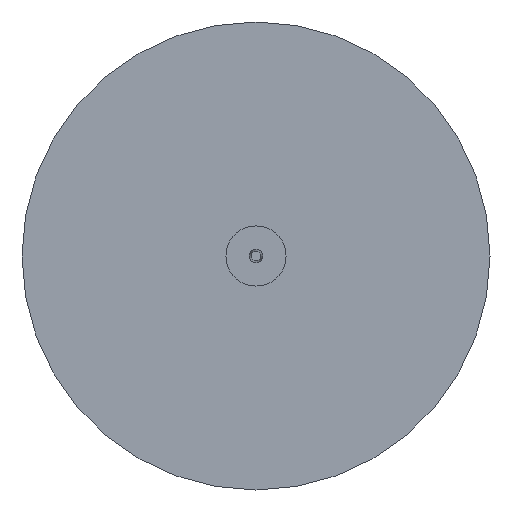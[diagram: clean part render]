
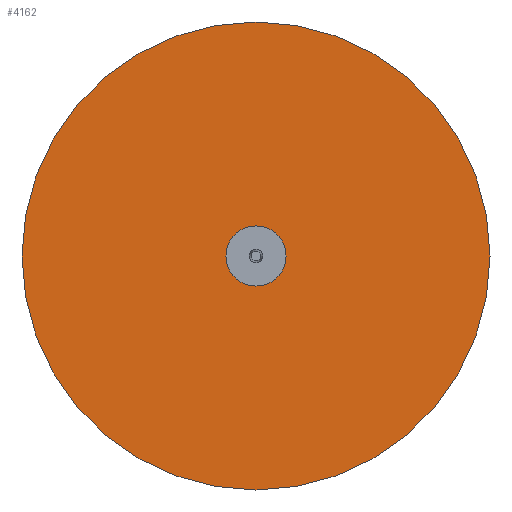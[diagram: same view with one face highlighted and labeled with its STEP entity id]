
A CAD part, front view. The second image highlights one B-rep face of the part: STEP entity #4162.
In plain terms, the highlighted planar face has unit normal (0, -1, 0).
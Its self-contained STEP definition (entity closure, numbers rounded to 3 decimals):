
#3882=CARTESIAN_POINT('',(70.,-39.498,0.0));
#3883=VERTEX_POINT('',#3882);
#3899=CARTESIAN_POINT('',(-70.,-39.498,0.));
#3900=VERTEX_POINT('',#3899);
#3907=CARTESIAN_POINT('',(0.0,-39.498,0.0));
#3908=DIRECTION('',(0.0,-1.0,0.0));
#3909=DIRECTION('',(1.0,0.0,0.0));
#3910=AXIS2_PLACEMENT_3D('',#3907,#3908,#3909);
#3911=CIRCLE('',#3910,70.);
#3912=EDGE_CURVE('',#3883,#3900,#3911,.T.);
#3974=CARTESIAN_POINT('',(9.,-39.498,0.0));
#3975=VERTEX_POINT('',#3974);
#4000=CARTESIAN_POINT('',(-9.,-39.498,0.));
#4001=VERTEX_POINT('',#4000);
#4008=CARTESIAN_POINT('',(0.0,-39.498,0.0));
#4009=DIRECTION('',(0.0,-1.0,0.0));
#4010=DIRECTION('',(1.0,0.0,0.0));
#4011=AXIS2_PLACEMENT_3D('',#4008,#4009,#4010);
#4012=CIRCLE('',#4011,9.);
#4013=EDGE_CURVE('',#4001,#3975,#4012,.T.);
#4092=CARTESIAN_POINT('',(0.0,-39.498,0.0));
#4093=DIRECTION('',(0.0,-1.0,0.0));
#4094=DIRECTION('',(1.0,0.0,0.0));
#4095=AXIS2_PLACEMENT_3D('',#4092,#4093,#4094);
#4096=CIRCLE('',#4095,9.);
#4097=EDGE_CURVE('',#3975,#4001,#4096,.T.);
#4131=CARTESIAN_POINT('',(0.0,-39.498,0.0));
#4132=DIRECTION('',(0.0,-1.0,0.0));
#4133=DIRECTION('',(1.0,0.0,0.0));
#4134=AXIS2_PLACEMENT_3D('',#4131,#4132,#4133);
#4135=CIRCLE('',#4134,70.);
#4136=EDGE_CURVE('',#3900,#3883,#4135,.T.);
#4149=CARTESIAN_POINT('',(39.5,-39.498,0.0));
#4150=DIRECTION('',(0.0,-1.0,0.0));
#4151=DIRECTION('',(0.0,0.0,-1.0));
#4152=AXIS2_PLACEMENT_3D('',#4149,#4150,#4151);
#4153=PLANE('',#4152);
#4154=ORIENTED_EDGE('',*,*,#3912,.T.);
#4155=ORIENTED_EDGE('',*,*,#4136,.T.);
#4156=EDGE_LOOP('',(#4154,#4155));
#4157=FACE_OUTER_BOUND('',#4156,.T.);
#4158=ORIENTED_EDGE('',*,*,#4097,.F.);
#4159=ORIENTED_EDGE('',*,*,#4013,.F.);
#4160=EDGE_LOOP('',(#4158,#4159));
#4161=FACE_BOUND('',#4160,.T.);
#4162=ADVANCED_FACE('',(#4157,#4161),#4153,.T.);
